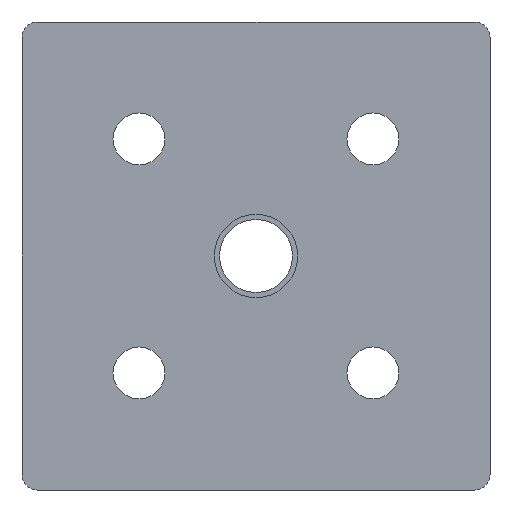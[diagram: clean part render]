
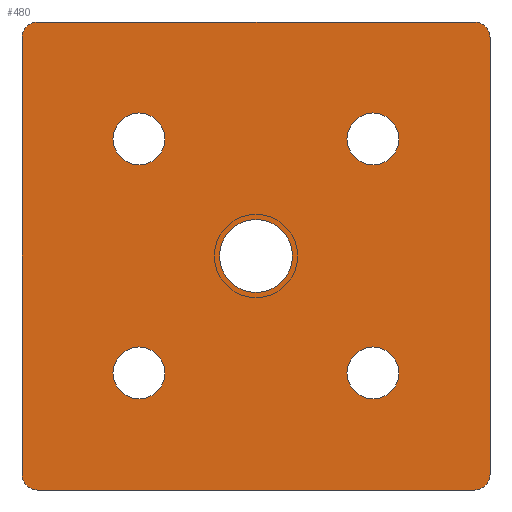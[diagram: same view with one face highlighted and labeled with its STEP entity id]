
A CAD part, front view. The second image highlights one B-rep face of the part: STEP entity #480.
In plain terms, the highlighted planar face has unit normal (0, -1, 0).
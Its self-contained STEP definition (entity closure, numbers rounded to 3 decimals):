
#1=CARTESIAN_POINT('',(-22.5,0.,-22.5));
#2=DIRECTION('',(0.,-1.,0.));
#3=DIRECTION('',(1.,0.,0.));
#4=AXIS2_PLACEMENT_3D('',#1,#2,#3);
#6=CARTESIAN_POINT('',(-22.5,0.,-22.5));
#7=DIRECTION('',(0.,-1.,0.));
#8=DIRECTION('',(-1.,0.,0.));
#9=AXIS2_PLACEMENT_3D('',#6,#7,#8);
#11=CARTESIAN_POINT('',(-22.5,0.,22.5));
#12=DIRECTION('',(0.,-1.,0.));
#13=DIRECTION('',(1.,0.,0.));
#14=AXIS2_PLACEMENT_3D('',#11,#12,#13);
#16=CARTESIAN_POINT('',(-22.5,0.,22.5));
#17=DIRECTION('',(0.,-1.,0.));
#18=DIRECTION('',(-1.,0.,0.));
#19=AXIS2_PLACEMENT_3D('',#16,#17,#18);
#21=CARTESIAN_POINT('',(0.,0.,0.));
#22=DIRECTION('',(0.,1.,0.));
#23=DIRECTION('',(1.,0.,0.));
#24=AXIS2_PLACEMENT_3D('',#21,#22,#23);
#26=CARTESIAN_POINT('',(0.,0.,0.));
#27=DIRECTION('',(0.,1.,0.));
#28=DIRECTION('',(-1.,0.,0.));
#29=AXIS2_PLACEMENT_3D('',#26,#27,#28);
#31=CARTESIAN_POINT('',(22.5,0.,-22.5));
#32=DIRECTION('',(0.,-1.,0.));
#33=DIRECTION('',(1.,0.,0.));
#34=AXIS2_PLACEMENT_3D('',#31,#32,#33);
#36=CARTESIAN_POINT('',(22.5,0.,-22.5));
#37=DIRECTION('',(0.,-1.,0.));
#38=DIRECTION('',(-1.,0.,0.));
#39=AXIS2_PLACEMENT_3D('',#36,#37,#38);
#41=CARTESIAN_POINT('',(22.5,0.,22.5));
#42=DIRECTION('',(0.,-1.,0.));
#43=DIRECTION('',(1.,0.,0.));
#44=AXIS2_PLACEMENT_3D('',#41,#42,#43);
#46=CARTESIAN_POINT('',(22.5,0.,22.5));
#47=DIRECTION('',(0.,-1.,0.));
#48=DIRECTION('',(-1.,0.,0.));
#49=AXIS2_PLACEMENT_3D('',#46,#47,#48);
#51=DIRECTION('',(0.,0.,-1.));
#52=VECTOR('',#51,84.);
#53=CARTESIAN_POINT('',(45.,0.,42.));
#54=LINE('',#53,#52);
#55=DIRECTION('',(-1.,0.,0.));
#56=VECTOR('',#55,84.);
#57=CARTESIAN_POINT('',(42.,0.,-45.));
#58=LINE('',#57,#56);
#59=DIRECTION('',(0.,0.,1.));
#60=VECTOR('',#59,84.);
#61=CARTESIAN_POINT('',(-45.,0.,-42.));
#62=LINE('',#61,#60);
#63=DIRECTION('',(1.,0.,0.));
#64=VECTOR('',#63,84.);
#65=CARTESIAN_POINT('',(-42.,0.,45.));
#66=LINE('',#65,#64);
#276=CARTESIAN_POINT('',(42.,0.,42.));
#277=DIRECTION('',(0.,-1.,0.));
#278=DIRECTION('',(1.,0.,0.));
#279=AXIS2_PLACEMENT_3D('',#276,#277,#278);
#294=CARTESIAN_POINT('',(-42.,0.,42.));
#295=DIRECTION('',(0.,-1.,0.));
#296=DIRECTION('',(0.,0.,1.));
#297=AXIS2_PLACEMENT_3D('',#294,#295,#296);
#312=CARTESIAN_POINT('',(-42.,0.,-42.));
#313=DIRECTION('',(0.,-1.,0.));
#314=DIRECTION('',(-1.,0.,0.));
#315=AXIS2_PLACEMENT_3D('',#312,#313,#314);
#330=CARTESIAN_POINT('',(42.,0.,-42.));
#331=DIRECTION('',(0.,-1.,0.));
#332=DIRECTION('',(0.,0.,-1.));
#333=AXIS2_PLACEMENT_3D('',#330,#331,#332);
#335=CARTESIAN_POINT('',(-17.5,0.,-22.5));
#336=CARTESIAN_POINT('',(-27.5,0.,-22.5));
#337=VERTEX_POINT('',#335);
#338=VERTEX_POINT('',#336);
#339=CARTESIAN_POINT('',(-17.5,0.,22.5));
#340=CARTESIAN_POINT('',(-27.5,0.,22.5));
#341=VERTEX_POINT('',#339);
#342=VERTEX_POINT('',#340);
#363=CARTESIAN_POINT('',(7.,0.,0.));
#364=CARTESIAN_POINT('',(-7.,0.,0.));
#365=VERTEX_POINT('',#363);
#366=VERTEX_POINT('',#364);
#372=CARTESIAN_POINT('',(42.,0.,45.));
#374=VERTEX_POINT('',#372);
#377=CARTESIAN_POINT('',(45.,0.,42.));
#378=VERTEX_POINT('',#377);
#380=CARTESIAN_POINT('',(-45.,0.,42.));
#382=VERTEX_POINT('',#380);
#385=CARTESIAN_POINT('',(-42.,0.,45.));
#386=VERTEX_POINT('',#385);
#388=CARTESIAN_POINT('',(45.,0.,-42.));
#390=VERTEX_POINT('',#388);
#393=CARTESIAN_POINT('',(42.,0.,-45.));
#394=VERTEX_POINT('',#393);
#396=CARTESIAN_POINT('',(-42.,0.,-45.));
#398=VERTEX_POINT('',#396);
#401=CARTESIAN_POINT('',(-45.,0.,-42.));
#402=VERTEX_POINT('',#401);
#403=CARTESIAN_POINT('',(27.5,0.,-22.5));
#404=CARTESIAN_POINT('',(17.5,0.,-22.5));
#405=VERTEX_POINT('',#403);
#406=VERTEX_POINT('',#404);
#407=CARTESIAN_POINT('',(27.5,0.,22.5));
#408=CARTESIAN_POINT('',(17.5,0.,22.5));
#409=VERTEX_POINT('',#407);
#410=VERTEX_POINT('',#408);
#427=CARTESIAN_POINT('',(0.,0.,0.));
#428=DIRECTION('',(0.,1.,0.));
#429=DIRECTION('',(1.,0.,0.));
#430=AXIS2_PLACEMENT_3D('',#427,#428,#429);
#431=PLANE('',#430);
#433=ORIENTED_EDGE('',*,*,#432,.F.);
#435=ORIENTED_EDGE('',*,*,#434,.T.);
#437=ORIENTED_EDGE('',*,*,#436,.F.);
#439=ORIENTED_EDGE('',*,*,#438,.T.);
#441=ORIENTED_EDGE('',*,*,#440,.F.);
#443=ORIENTED_EDGE('',*,*,#442,.T.);
#445=ORIENTED_EDGE('',*,*,#444,.F.);
#447=ORIENTED_EDGE('',*,*,#446,.T.);
#448=EDGE_LOOP('',(#433,#435,#437,#439,#441,#443,#445,#447));
#449=FACE_OUTER_BOUND('',#448,.F.);
#451=ORIENTED_EDGE('',*,*,#450,.T.);
#453=ORIENTED_EDGE('',*,*,#452,.T.);
#454=EDGE_LOOP('',(#451,#453));
#455=FACE_BOUND('',#454,.F.);
#457=ORIENTED_EDGE('',*,*,#456,.T.);
#459=ORIENTED_EDGE('',*,*,#458,.T.);
#460=EDGE_LOOP('',(#457,#459));
#461=FACE_BOUND('',#460,.F.);
#463=ORIENTED_EDGE('',*,*,#462,.F.);
#465=ORIENTED_EDGE('',*,*,#464,.F.);
#466=EDGE_LOOP('',(#463,#465));
#467=FACE_BOUND('',#466,.F.);
#469=ORIENTED_EDGE('',*,*,#468,.T.);
#471=ORIENTED_EDGE('',*,*,#470,.T.);
#472=EDGE_LOOP('',(#469,#471));
#473=FACE_BOUND('',#472,.F.);
#475=ORIENTED_EDGE('',*,*,#474,.T.);
#477=ORIENTED_EDGE('',*,*,#476,.T.);
#478=EDGE_LOOP('',(#475,#477));
#479=FACE_BOUND('',#478,.F.);
#480=ADVANCED_FACE('',(#449,#455,#461,#467,#473,#479),#431,.F.);
#5=CIRCLE('',#4,5.);
#10=CIRCLE('',#9,5.);
#15=CIRCLE('',#14,5.);
#20=CIRCLE('',#19,5.);
#25=CIRCLE('',#24,7.);
#30=CIRCLE('',#29,7.);
#35=CIRCLE('',#34,5.);
#40=CIRCLE('',#39,5.);
#45=CIRCLE('',#44,5.);
#50=CIRCLE('',#49,5.);
#280=CIRCLE('',#279,3.);
#298=CIRCLE('',#297,3.);
#316=CIRCLE('',#315,3.);
#334=CIRCLE('',#333,3.);
#432=EDGE_CURVE('',#378,#374,#280,.T.);
#434=EDGE_CURVE('',#378,#390,#54,.T.);
#436=EDGE_CURVE('',#394,#390,#334,.T.);
#438=EDGE_CURVE('',#394,#398,#58,.T.);
#440=EDGE_CURVE('',#402,#398,#316,.T.);
#442=EDGE_CURVE('',#402,#382,#62,.T.);
#444=EDGE_CURVE('',#386,#382,#298,.T.);
#446=EDGE_CURVE('',#386,#374,#66,.T.);
#450=EDGE_CURVE('',#337,#338,#5,.T.);
#452=EDGE_CURVE('',#338,#337,#10,.T.);
#456=EDGE_CURVE('',#341,#342,#15,.T.);
#458=EDGE_CURVE('',#342,#341,#20,.T.);
#462=EDGE_CURVE('',#365,#366,#25,.T.);
#464=EDGE_CURVE('',#366,#365,#30,.T.);
#468=EDGE_CURVE('',#405,#406,#35,.T.);
#470=EDGE_CURVE('',#406,#405,#40,.T.);
#474=EDGE_CURVE('',#409,#410,#45,.T.);
#476=EDGE_CURVE('',#410,#409,#50,.T.);
